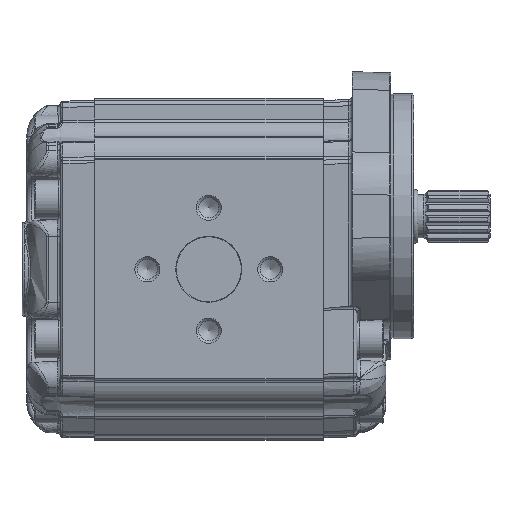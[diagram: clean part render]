
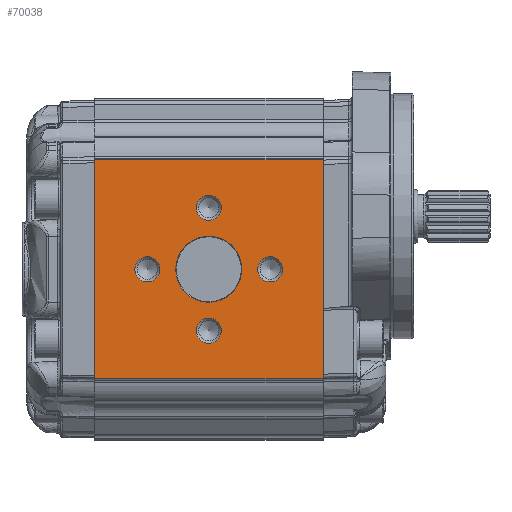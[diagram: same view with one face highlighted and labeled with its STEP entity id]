
A CAD part, left-side view. The second image highlights one B-rep face of the part: STEP entity #70038.
In plain terms, the highlighted planar face has unit normal (-1, 0, 0).
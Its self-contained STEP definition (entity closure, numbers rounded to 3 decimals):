
#8116=LINE('',#122494,#10130);
#8127=LINE('',#122579,#10141);
#8165=LINE('',#122687,#10179);
#8166=LINE('',#122688,#10180);
#10130=VECTOR('',#77578,1000.);
#10141=VECTOR('',#77653,1000.);
#10179=VECTOR('',#77779,1000.);
#10180=VECTOR('',#77780,1000.);
#16502=ORIENTED_EDGE('',*,*,#29295,.T.);
#16503=ORIENTED_EDGE('',*,*,#29296,.T.);
#16504=ORIENTED_EDGE('',*,*,#29297,.T.);
#16505=ORIENTED_EDGE('',*,*,#29298,.T.);
#16506=ORIENTED_EDGE('',*,*,#29299,.T.);
#16507=ORIENTED_EDGE('',*,*,#29199,.F.);
#16508=ORIENTED_EDGE('',*,*,#29300,.T.);
#16509=ORIENTED_EDGE('',*,*,#29241,.F.);
#16510=ORIENTED_EDGE('',*,*,#29301,.T.);
#29199=EDGE_CURVE('',#35924,#35925,#8116,.T.);
#29241=EDGE_CURVE('',#35966,#35967,#8127,.T.);
#29295=EDGE_CURVE('',#35988,#35988,#39783,.F.);
#29296=EDGE_CURVE('',#35989,#35989,#39784,.F.);
#29297=EDGE_CURVE('',#35990,#35990,#39785,.F.);
#29298=EDGE_CURVE('',#35991,#35991,#39786,.F.);
#29299=EDGE_CURVE('',#35992,#35992,#39787,.F.);
#29300=EDGE_CURVE('',#35924,#35967,#8165,.F.);
#29301=EDGE_CURVE('',#35966,#35925,#8166,.F.);
#35924=VERTEX_POINT('',#122493);
#35925=VERTEX_POINT('',#122495);
#35966=VERTEX_POINT('',#122578);
#35967=VERTEX_POINT('',#122580);
#35988=VERTEX_POINT('',#122678);
#35989=VERTEX_POINT('',#122680);
#35990=VERTEX_POINT('',#122682);
#35991=VERTEX_POINT('',#122684);
#35992=VERTEX_POINT('',#122686);
#39783=CIRCLE('',#73301,5.188);
#39784=CIRCLE('',#73302,5.188);
#39785=CIRCLE('',#73303,5.188);
#39786=CIRCLE('',#73304,5.188);
#39787=CIRCLE('',#73305,13.7);
#41124=EDGE_LOOP('',(#16502));
#41125=EDGE_LOOP('',(#16503));
#41126=EDGE_LOOP('',(#16504));
#41127=EDGE_LOOP('',(#16505));
#41128=EDGE_LOOP('',(#16506));
#41129=EDGE_LOOP('',(#16507,#16508,#16509,#16510));
#44483=FACE_BOUND('',#41124,.T.);
#44484=FACE_BOUND('',#41125,.T.);
#44485=FACE_BOUND('',#41126,.T.);
#44486=FACE_BOUND('',#41127,.T.);
#44487=FACE_BOUND('',#41128,.T.);
#44488=FACE_BOUND('',#41129,.T.);
#46924=PLANE('',#73300);
#70038=ADVANCED_FACE('',(#44483,#44484,#44485,#44486,#44487,#44488),#46924,
 .T.);
#73300=AXIS2_PLACEMENT_3D('',#122676,#77767,#77768);
#73301=AXIS2_PLACEMENT_3D('',#122677,#77769,#77770);
#73302=AXIS2_PLACEMENT_3D('',#122679,#77771,#77772);
#73303=AXIS2_PLACEMENT_3D('',#122681,#77773,#77774);
#73304=AXIS2_PLACEMENT_3D('',#122683,#77775,#77776);
#73305=AXIS2_PLACEMENT_3D('',#122685,#77777,#77778);
#77578=DIRECTION('',(0.,0.,1.));
#77653=DIRECTION('',(0.,0.,-1.));
#77767=DIRECTION('',(-1.,0.,0.));
#77768=DIRECTION('',(0.,0.,-1.));
#77769=DIRECTION('',(-1.,0.,0.));
#77770=DIRECTION('',(0.,0.,-1.));
#77771=DIRECTION('',(-1.,0.,0.));
#77772=DIRECTION('',(0.,0.,-1.));
#77773=DIRECTION('',(-1.,0.,0.));
#77774=DIRECTION('',(0.,0.,-1.));
#77775=DIRECTION('',(-1.,0.,0.));
#77776=DIRECTION('',(0.,0.,-1.));
#77777=DIRECTION('',(-1.,0.,0.));
#77778=DIRECTION('',(0.,0.,-1.));
#77779=DIRECTION('',(0.,1.,0.));
#77780=DIRECTION('',(0.,-1.,0.));
#122493=CARTESIAN_POINT('',(-57.5,95.,-45.5));
#122494=CARTESIAN_POINT('',(-57.5,95.,-84.819));
#122495=CARTESIAN_POINT('',(-57.5,95.,45.5));
#122578=CARTESIAN_POINT('',(-57.5,0.,45.5));
#122579=CARTESIAN_POINT('',(-57.5,0.,-44.978));
#122580=CARTESIAN_POINT('',(-57.5,0.,-45.5));
#122676=CARTESIAN_POINT('',(-57.5,-136.868,-84.819));
#122677=CARTESIAN_POINT('',(-57.5,47.5,25.5));
#122678=CARTESIAN_POINT('',(-57.5,47.5,20.312));
#122679=CARTESIAN_POINT('',(-57.5,73.,0.));
#122680=CARTESIAN_POINT('',(-57.5,73.,-5.188));
#122681=CARTESIAN_POINT('',(-57.5,47.5,-25.5));
#122682=CARTESIAN_POINT('',(-57.5,47.5,-30.688));
#122683=CARTESIAN_POINT('',(-57.5,22.,0.));
#122684=CARTESIAN_POINT('',(-57.5,22.,-5.188));
#122685=CARTESIAN_POINT('',(-57.5,47.5,0.));
#122686=CARTESIAN_POINT('',(-57.5,47.5,-13.7));
#122687=CARTESIAN_POINT('',(-57.5,-136.868,-45.5));
#122688=CARTESIAN_POINT('',(-57.5,-136.868,45.5));
